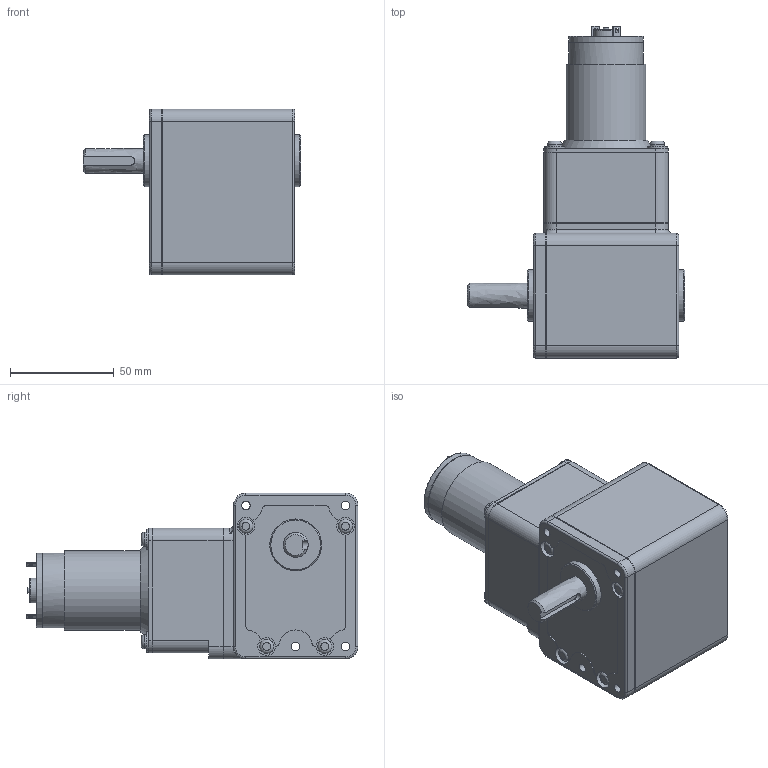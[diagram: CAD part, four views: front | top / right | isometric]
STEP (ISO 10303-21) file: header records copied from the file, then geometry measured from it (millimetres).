
FILE_DESCRIPTION((''),'2;1');
FILE_NAME('C:\Documents and Settings\SSEGAWA\デスクトップ\TP-3850A-SWR.STP','2013-07-29T15:17:35',('SSEGAWA'),(''),'Autodesk Inventor 2010','Autodesk Inventor 2010','');
FILE_SCHEMA(('CONFIG_CONTROL_DESIGN'));
Length unit declared in the file: millimetre
Products named in the file (1): tp_3850a_swr_Shrinkwrap_1
Bounding box: 105 x 160 x 80 mm (x, y, z)
Volume: 543277.7 mm3; surface area: 56684.8 mm2
Topology: 1 solids, 10 shells, 273 faces, 640 edges, 415 vertices
Faces by surface type: plane 105, cylinder 95, bspline 48, torus 20, cone 5
Full cylindrical faces by diameter (mm): 2.5 x1, 3 x1, 4.5 x1, 6.8 x8, 7 x3, 8.5 x4, 9.8 x4, 12 x2, 18 x2, 25 x1, 35.6 x1, 36 x2, 54 x1
Entity records: 8131 total; most frequent: CARTESIAN_POINT 1910, DIRECTION 1263, ORIENTED_EDGE 1094, EDGE_CURVE 547, AXIS2_PLACEMENT_3D 496, VERTEX_POINT 390, EDGE_LOOP 387, STYLED_ITEM 274
